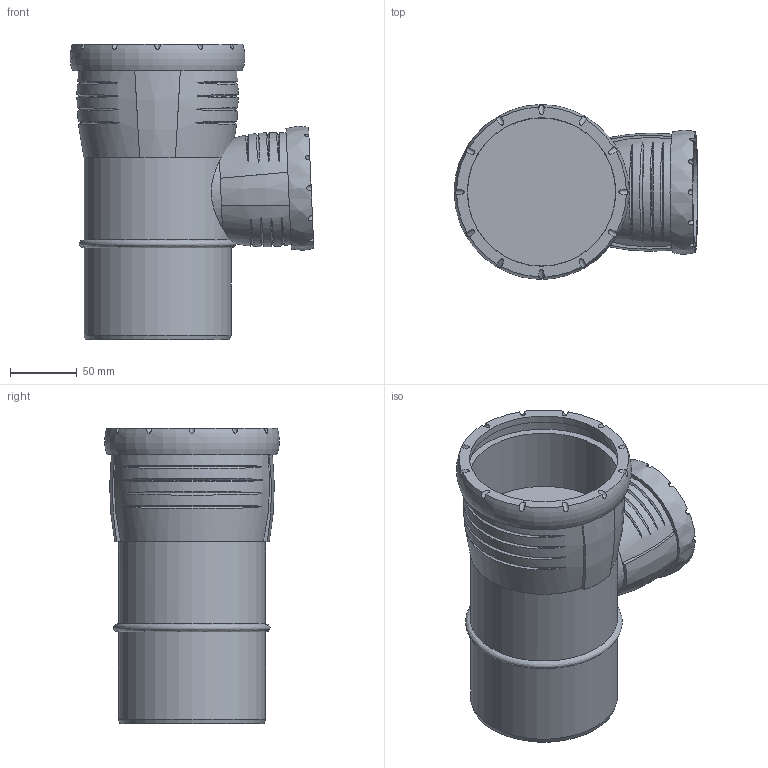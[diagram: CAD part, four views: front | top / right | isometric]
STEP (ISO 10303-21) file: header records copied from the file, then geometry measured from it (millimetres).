
FILE_DESCRIPTION(/* description */ (''),/* implementation_level */ '2;1');
FILE_NAME(/* name */ 'H:\Geberit-Teile\Export\Abzweig PP\stp\393549.stp',/* time_stamp */ '2017-02-13T13:19:30+01:00',/* author */ ('seihe2'),/* organization */ (''),/* preprocessor_version */ 'ST-DEVELOPER v15.2',/* originating_system */ 'Autodesk Inventor 2014',/* authorisation */ '');
FILE_SCHEMA (('AUTOMOTIVE_DESIGN { 1 0 10303 214 3 1 1 }'));
Length unit declared in the file: millimetre
Products named in the file (1): 393549
Bounding box: 182.53 x 130.89 x 221.8 mm (x, y, z)
Volume: 1292523 mm3; surface area: 231939.3 mm2
Topology: 5 solids, 5 shells, 108 faces, 250 edges, 176 vertices
Faces by surface type: bspline 46, cylinder 41, plane 19, cone 1, torus 1
Full cylindrical faces by diameter (mm): 58.903 x1, 75.9 x1, 76.2 x1, 85 x1, 90 x1, 101.2 x1, 110.2 x3, 111 x1, 111.3 x1, 121.5 x1
Entity records: 7753 total; most frequent: CARTESIAN_POINT 5530, ORIENTED_EDGE 464, DIRECTION 333, EDGE_CURVE 231, VERTEX_POINT 171, AXIS2_PLACEMENT_3D 166, EDGE_LOOP 150, B_SPLINE_CURVE_WITH_KNOTS 126
